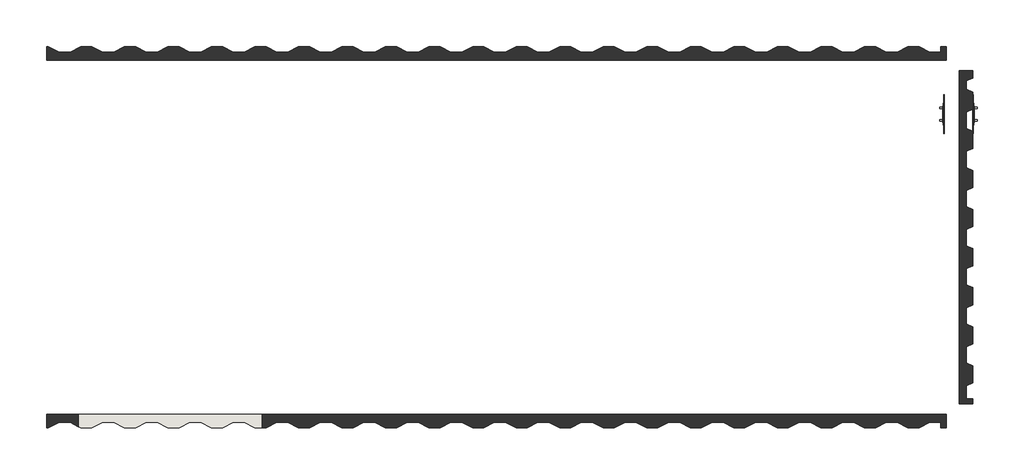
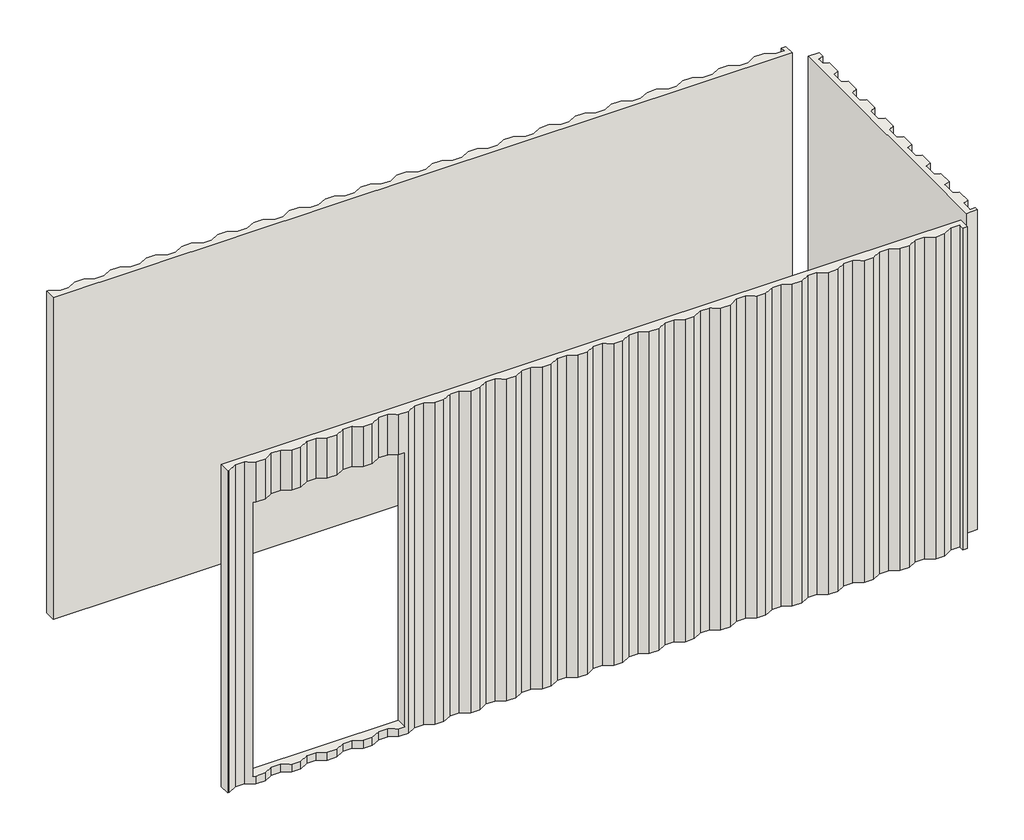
# One storey, incomplete: 3 walls, 1 proxy.
"""IFC4 building model written with IfcOpenShell, lengths in millimetres."""

from ifc_helpers import new_model, si_unit, origin, place, context, project, spatial, transform, mapped, element, save
from components import electrical_equipment_bb2c5f74, walls_1_walls_2_d0ac757c, walls_3_walls_2_973bfb74, walls_7_walls_2_6c4b2b37

model = new_model("IFC4")

# Units and contexts
model_context = context("Model", 3, world=origin())
ifc_project = project(units=[si_unit("LENGTHUNIT", "METRE", prefix="MILLI")], contexts=[model_context])

# Site, building, storey
site = spatial("IfcSite", under=ifc_project)
building = spatial("IfcBuilding", under=site)
storey = spatial("IfcBuildingStorey", under=building, Name="B.O. Footing", Elevation=0.0)

# Proxy
placement = place(None, origin())
electrical_equipment_shape = electrical_equipment_bb2c5f74(model_context)
element("IfcBuildingElementProxy", 1, Name="Distribution_Socket_Single_rotated : Distribution_Socket_Single_rotated", ObjectType="Distribution_Socket_Single_rotated : Distribution_Socket_Single_rotated", at=placement, inside=storey, context=model_context, shape_type="MappedRepresentation", body=[
    mapped(electrical_equipment_shape, transform((1781.8997533, -968.5205494, 637.2220356), x_axis=(0.0, 1.0, 0.0), y_axis=(-1.0, 0.0, 0.0), z_axis=(0.0, 0.0, 1.0))),
])

# Walls
walls_1_walls_2_shape = walls_1_walls_2_d0ac757c(model_context)
element("IfcWall", 2, ObjectType="Walls 1 : Walls 2", at=placement, inside=storey, context=model_context, shape_type="MappedRepresentation", body=[
    mapped(walls_1_walls_2_shape, transform((0.0, 0.0, 0.0), x_axis=(1.0, 0.0, 0.0), y_axis=(0.0, 1.0, 0.0), z_axis=(0.0, 0.0, 1.0))),
])
walls_3_walls_2_shape = walls_3_walls_2_973bfb74(model_context)
element("IfcWall", 3, ObjectType="Walls 3 : Walls 2", at=placement, inside=storey, context=model_context, shape_type="MappedRepresentation", body=[
    mapped(walls_3_walls_2_shape, transform((0.0, 0.0, 0.0), x_axis=(1.0, 0.0, 0.0), y_axis=(0.0, 1.0, 0.0), z_axis=(0.0, 0.0, 1.0))),
])
walls_7_walls_2_shape = walls_7_walls_2_6c4b2b37(model_context)
element("IfcWall", 4, ObjectType="Walls 7 : Walls 2", at=placement, inside=storey, context=model_context, shape_type="MappedRepresentation", body=[
    mapped(walls_7_walls_2_shape, transform((0.0, 0.0, 0.0), x_axis=(1.0, 0.0, 0.0), y_axis=(0.0, 1.0, 0.0), z_axis=(0.0, 0.0, 1.0))),
])

save(model, "model.ifc")
